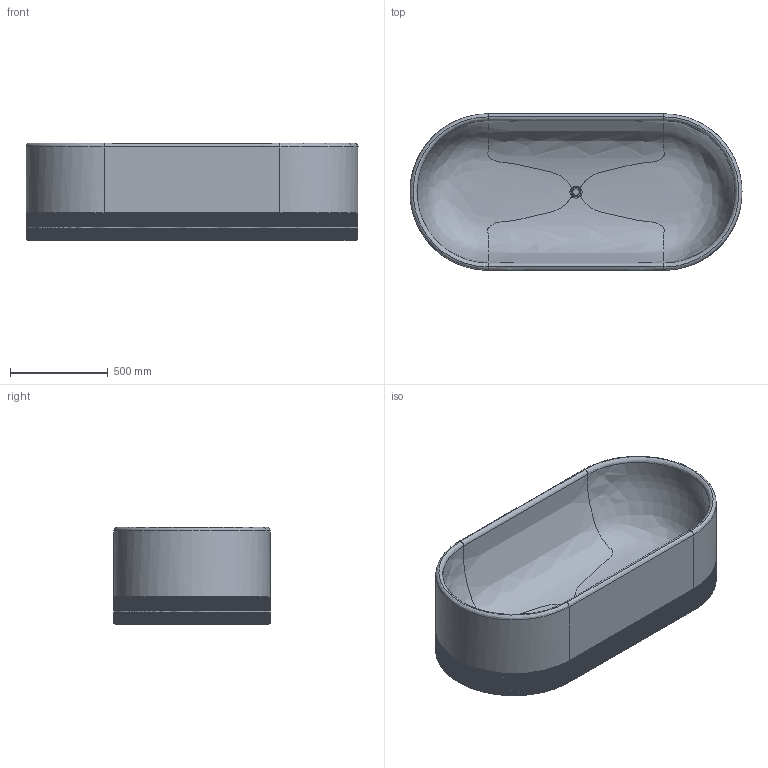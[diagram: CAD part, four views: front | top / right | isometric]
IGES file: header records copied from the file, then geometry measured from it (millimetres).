
Start section: Data from Parasolid IGES Translator 22.0.50, Copyright(c) 2006 Siemens P LM Software. All Rights Reserved.
Global section: file name: noorth-bathtub-H 50 D 80 W 170_5079.igs; native system: By Siemens PLM Incorporated; preprocessor: XPlus GENERIC/IGES 22.0.50; author: Noname; organization: Noname; date: 20250706.170405; units: metre
Bounding box: 1700 x 800 x 500 mm (x, y, z)
Volume: 204284711.3 mm3; surface area: 7137617.6 mm2
Topology: 1 solids, 1 shells, 2836 faces, 19333 edges, 19306 vertices
Faces by surface type: revolution 2796, plane 12, bspline 12, cylinder 9, extrusion 7
Full cylindrical faces by diameter (mm): 34 x1, 50 x1, 62 x1
